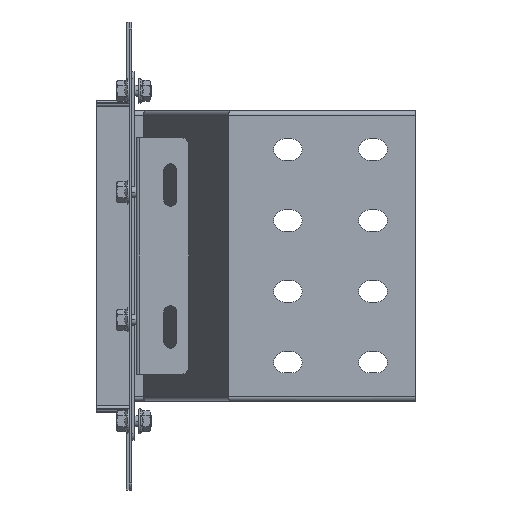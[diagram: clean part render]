
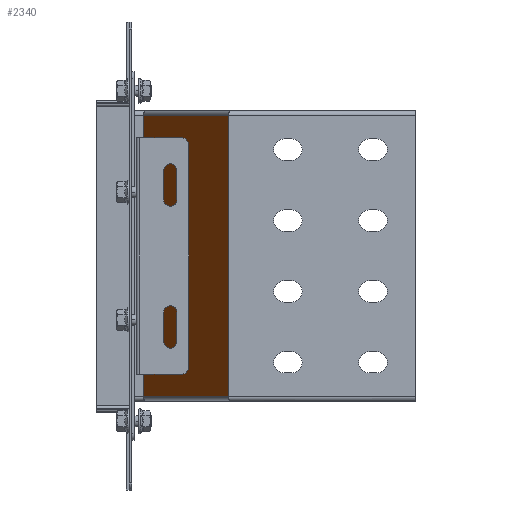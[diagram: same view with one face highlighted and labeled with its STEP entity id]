
A CAD part, front view. The second image highlights one B-rep face of the part: STEP entity #2340.
In plain terms, the highlighted planar face has unit normal (-0.901, -0.434, 0).
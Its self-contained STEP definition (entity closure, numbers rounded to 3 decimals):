
#2320=AXIS2_PLACEMENT_3D('Plane Axis2P3D',#2317,#2318,#2319) ;
#1811=CARTESIAN_POINT('Vertex',(68.022,-138.15,-99.35)) ;
#1825=CARTESIAN_POINT('Vertex',(68.022,-138.15,99.35)) ;
#1828=CARTESIAN_POINT('Line Origine',(68.022,-138.15,0.)) ;
#2280=CARTESIAN_POINT('Line Origine',(37.163,-74.163,-99.35)) ;
#2284=CARTESIAN_POINT('Vertex',(8.022,-13.74,-99.35)) ;
#2317=CARTESIAN_POINT('Axis2P3D Location',(68.881,-139.932,-99.35)) ;
#2322=CARTESIAN_POINT('Line Origine',(38.022,-75.945,99.35)) ;
#2326=CARTESIAN_POINT('Vertex',(8.022,-13.74,99.35)) ;
#2329=CARTESIAN_POINT('Line Origine',(8.022,-13.74,0.)) ;
#1829=DIRECTION('Vector Direction',(0.,0.,1.)) ;
#2281=DIRECTION('Vector Direction',(0.434,-0.901,0.)) ;
#2318=DIRECTION('Axis2P3D Direction',(-0.901,-0.434,0.)) ;
#2319=DIRECTION('Axis2P3D XDirection',(0.,0.,1.)) ;
#2323=DIRECTION('Vector Direction',(-0.434,0.901,0.)) ;
#2330=DIRECTION('Vector Direction',(0.,0.,1.)) ;
#1830=VECTOR('Line Direction',#1829,1.) ;
#2282=VECTOR('Line Direction',#2281,1.) ;
#2324=VECTOR('Line Direction',#2323,1.) ;
#2331=VECTOR('Line Direction',#2330,1.) ;
#2335=ORIENTED_EDGE('',*,*,#2328,.T.) ;
#2336=ORIENTED_EDGE('',*,*,#2333,.F.) ;
#2337=ORIENTED_EDGE('',*,*,#2286,.F.) ;
#2338=ORIENTED_EDGE('',*,*,#1832,.T.) ;
#2340=ADVANCED_FACE('N',(#2339),#2321,.T.) ;
#1832=EDGE_CURVE('',#1812,#1826,#1831,.T.) ;
#2286=EDGE_CURVE('',#1812,#2285,#2283,.F.) ;
#2328=EDGE_CURVE('',#1826,#2327,#2325,.T.) ;
#2333=EDGE_CURVE('',#2285,#2327,#2332,.T.) ;
#2334=EDGE_LOOP('',(#2335,#2336,#2337,#2338)) ;
#2339=FACE_OUTER_BOUND('',#2334,.T.) ;
#1831=LINE('Line',#1828,#1830) ;
#2283=LINE('Line',#2280,#2282) ;
#2325=LINE('Line',#2322,#2324) ;
#2332=LINE('Line',#2329,#2331) ;
#2321=PLANE('',#2320) ;
#1812=VERTEX_POINT('',#1811) ;
#1826=VERTEX_POINT('',#1825) ;
#2285=VERTEX_POINT('',#2284) ;
#2327=VERTEX_POINT('',#2326) ;
